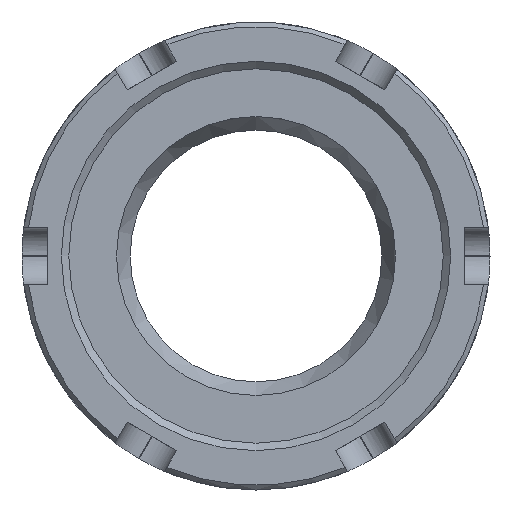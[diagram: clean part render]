
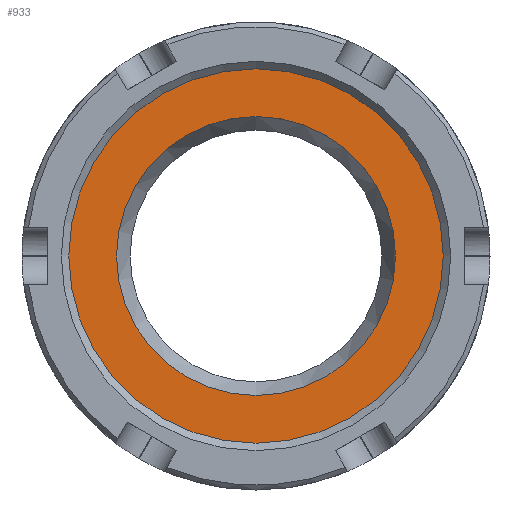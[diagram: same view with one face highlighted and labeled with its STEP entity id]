
A CAD part, front view. The second image highlights one B-rep face of the part: STEP entity #933.
In plain terms, the highlighted planar face has unit normal (0, -1, 0).
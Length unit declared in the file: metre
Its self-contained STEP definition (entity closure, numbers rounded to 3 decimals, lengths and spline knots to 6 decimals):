
#23=PLANE('',#1026);
#318=ORIENTED_EDGE('',*,*,#578,.F.);
#319=ORIENTED_EDGE('',*,*,#577,.T.);
#577=EDGE_CURVE('',#704,#704,#757,.T.);
#578=EDGE_CURVE('',#705,#705,#758,.T.);
#704=VERTEX_POINT('',#1583);
#705=VERTEX_POINT('',#1586);
#757=CIRCLE('',#1025,0.021);
#758=CIRCLE('',#1027,0.0149);
#792=EDGE_LOOP('',(#318));
#793=EDGE_LOOP('',(#319));
#858=FACE_BOUND('',#792,.T.);
#859=FACE_BOUND('',#793,.T.);
#933=ADVANCED_FACE('',(#858,#859),#23,.F.);
#1025=AXIS2_PLACEMENT_3D('',#1582,#1189,#1190);
#1026=AXIS2_PLACEMENT_3D('',#1584,#1191,#1192);
#1027=AXIS2_PLACEMENT_3D('',#1585,#1193,#1194);
#1189=DIRECTION('',(0.,-1.,0.));
#1190=DIRECTION('',(0.,0.,-1.));
#1191=DIRECTION('',(0.,1.,0.));
#1192=DIRECTION('',(0.,0.,1.));
#1193=DIRECTION('',(0.,-1.,0.));
#1194=DIRECTION('',(0.,0.,-1.));
#1582=CARTESIAN_POINT('',(0.,0.0163,0.));
#1583=CARTESIAN_POINT('',(0.,0.0163,-0.021));
#1584=CARTESIAN_POINT('',(0.,0.0163,0.01795));
#1585=CARTESIAN_POINT('',(0.,0.0163,0.));
#1586=CARTESIAN_POINT('',(0.,0.0163,-0.0149));
